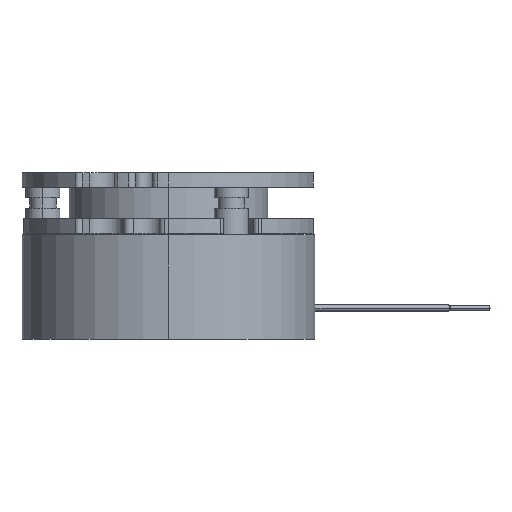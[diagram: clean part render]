
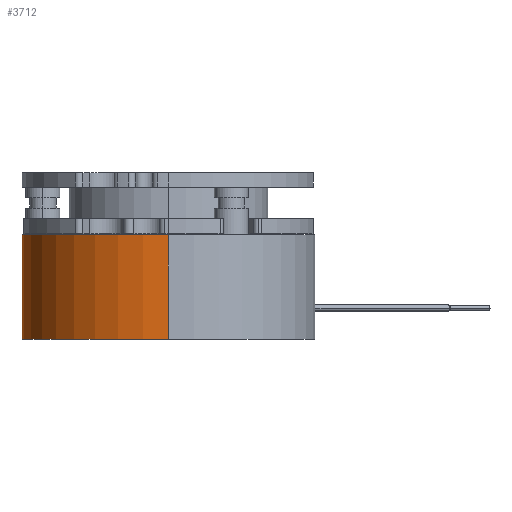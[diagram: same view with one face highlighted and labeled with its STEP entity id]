
A CAD part, left-side view. The second image highlights one B-rep face of the part: STEP entity #3712.
In plain terms, the highlighted cylindrical face has radius 28 mm (diameter 56 mm), a partial arc.
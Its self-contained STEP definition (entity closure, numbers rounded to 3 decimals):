
#504 = FACE_OUTER_BOUND ( 'NONE', #8898, .T. ) ;
#512 = CYLINDRICAL_SURFACE ( 'NONE', #5923, 28. ) ;
#590 = VERTEX_POINT ( 'NONE', #10840 ) ;
#591 = VERTEX_POINT ( 'NONE', #10839 ) ;
#596 = VERTEX_POINT ( 'NONE', #12193 ) ;
#1140 = CARTESIAN_POINT ( 'NONE',  ( 0., 0., 20. ) ) ;
#1141 = DIRECTION ( 'NONE',  ( 0., 0., -1. ) ) ;
#1149 = DIRECTION ( 'NONE',  ( -1., 0., 0. ) ) ;
#1675 = AXIS2_PLACEMENT_3D ( 'NONE', #7705, #7706, #7707 ) ;
#1676 = AXIS2_PLACEMENT_3D ( 'NONE', #7710, #7711, #7712 ) ;
#3712 = ADVANCED_FACE ( 'NONE', ( #504 ), #512, .T. ) ;
#4473 = VERTEX_POINT ( 'NONE', #12774 ) ;
#5923 = AXIS2_PLACEMENT_3D ( 'NONE', #1140, #1141, #1149 ) ;
#6675 = CIRCLE ( 'NONE', #1676, 28. ) ;
#6684 = CIRCLE ( 'NONE', #1675, 28. ) ;
#6686 = LINE ( 'NONE', #7704, #6688 ) ;
#6687 = LINE ( 'NONE', #7713, #6689 ) ;
#6688 = VECTOR ( 'NONE', #7703, 1000. ) ;
#6689 = VECTOR ( 'NONE', #7715, 1000. ) ;
#6883 = ORIENTED_EDGE ( 'NONE', *, *, #11428, .F. ) ;
#6884 = ORIENTED_EDGE ( 'NONE', *, *, #11430, .T. ) ;
#6885 = ORIENTED_EDGE ( 'NONE', *, *, #11427, .T. ) ;
#6886 = ORIENTED_EDGE ( 'NONE', *, *, #11429, .F. ) ;
#7703 = DIRECTION ( 'NONE',  ( 0., 0., -1. ) ) ;
#7704 = CARTESIAN_POINT ( 'NONE',  ( -28., 0., 20. ) ) ;
#7705 = CARTESIAN_POINT ( 'NONE',  ( 0., 0., 0. ) ) ;
#7706 = DIRECTION ( 'NONE',  ( 0., 0., 1. ) ) ;
#7707 = DIRECTION ( 'NONE',  ( 1., 0., 0. ) ) ;
#7710 = CARTESIAN_POINT ( 'NONE',  ( 0., 0., 20. ) ) ;
#7711 = DIRECTION ( 'NONE',  ( 0., 0., 1. ) ) ;
#7712 = DIRECTION ( 'NONE',  ( 1., 0., 0. ) ) ;
#7713 = CARTESIAN_POINT ( 'NONE',  ( 28., 0., 20. ) ) ;
#7715 = DIRECTION ( 'NONE',  ( 0., 0., -1. ) ) ;
#8898 = EDGE_LOOP ( 'NONE', ( #6883, #6884, #6885, #6886 ) ) ;
#10839 = CARTESIAN_POINT ( 'NONE',  ( -28., 0., 0. ) ) ;
#10840 = CARTESIAN_POINT ( 'NONE',  ( -28., 0., 20. ) ) ;
#11427 = EDGE_CURVE ( 'NONE', #596, #591, #6684, .T. ) ;
#11428 = EDGE_CURVE ( 'NONE', #4473, #590, #6675, .T. ) ;
#11429 = EDGE_CURVE ( 'NONE', #590, #591, #6686, .T. ) ;
#11430 = EDGE_CURVE ( 'NONE', #4473, #596, #6687, .T. ) ;
#12193 = CARTESIAN_POINT ( 'NONE',  ( 28., 0., 0. ) ) ;
#12774 = CARTESIAN_POINT ( 'NONE',  ( 28., 0., 20. ) ) ;
